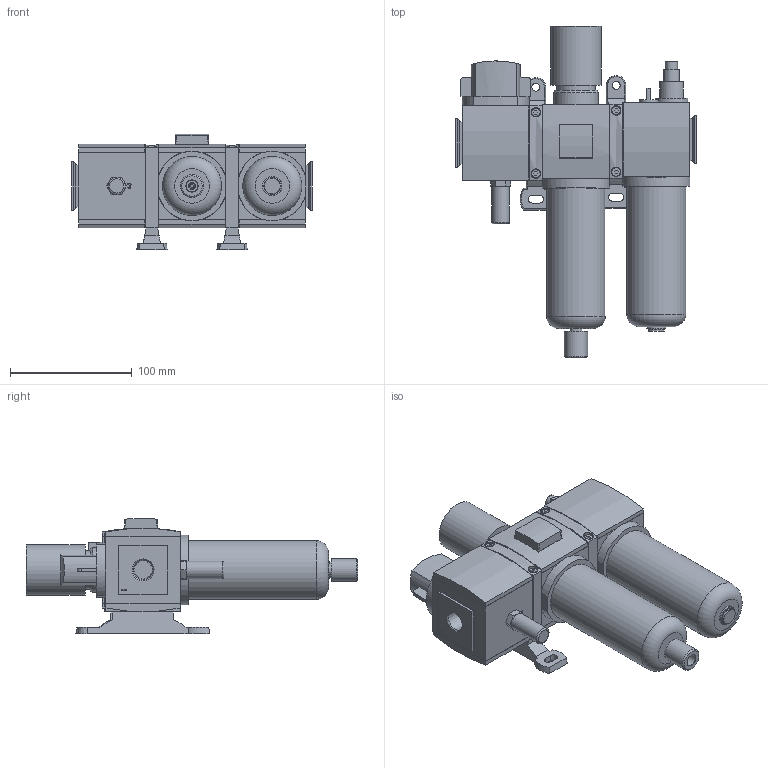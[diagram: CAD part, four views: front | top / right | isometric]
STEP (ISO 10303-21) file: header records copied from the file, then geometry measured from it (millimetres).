
FILE_DESCRIPTION( ( 'STEP AP214' ), '1' );
FILE_NAME( 'p:/temp/worker_20/temp/exporttempdir_3280_29_4eWxo/format_0/12072020-140201_gen_3122.stp', '2020-02-12T13:07:02', ( '' ), ( '' ), ' ', 'PARTsolutions', ' ' );
FILE_SCHEMA( ( 'AUTOMOTIVE_DESIGN { 1 0 10303 214 1 1 1 1 }' ) );
Length unit declared in the file: millimetre
Products named in the file (16): 12072020-140201_gen_3122; _433433014-F--0-A00129L; _433441-002-SV-0; _437742-001-100; _M2MN_652; _G652ASLA0B00A00_LS; _433073-014-F-KA0010AD0L; _433894-001; _440508-001-STANDARD; _433441-001-R-H; _438047-009; _433441-001-R-0; _440511-008-P; _440512-002-N; _433456-014-F-KA00; _440512-001_plug
Assembly tree (20 placements, depth 2):
  12072020-140201_gen_3122
    _433433014-F--0-A00129L
    _433441-002-SV-0  x4
    _437742-001-100
    _M2MN_652
    _G652ASLA0B00A00_LS  x2
    _433073-014-F-KA0010AD0L
    _433894-001
    _440508-001-STANDARD
    _433441-001-R-H
    _438047-009
    _433441-001-R-0
    _440511-008-P  x2
    _440512-002-N
    _433456-014-F-KA00
    _440512-001_plug
Bounding box: 198 x 272.52 x 94.91 mm (x, y, z)
Volume: 1419297.5 mm3; surface area: 235298.5 mm2
Topology: 20 solids, 20 shells, 742 faces, 1784 edges, 1157 vertices
Faces by surface type: plane 584, cylinder 95, cone 53, torus 10
Full cylindrical faces by diameter (mm): 2.8 x2, 5 x1, 5.6 x4, 6.3 x4, 6.5 x2, 7 x4, 7.8 x4, 8.25 x4, 9.728 x2, 10 x5, 13 x1, 13.5 x1, 14.224 x1, 15.1 x1, 15.875 x1, 16 x1, 19 x1, 19.2 x1, 19.4 x1, 27 x1, 28.5 x1, 31.6 x1, 37 x1, 41.845 x1, 48.5 x2
Entity records: 24454 total; most frequent: CARTESIAN_POINT 3716, DIRECTION 3056, ORIENTED_EDGE 3004, EDGE_CURVE 1502, LINE 1208, VECTOR 1208, VERTEX_POINT 1020, AXIS2_PLACEMENT_3D 924
